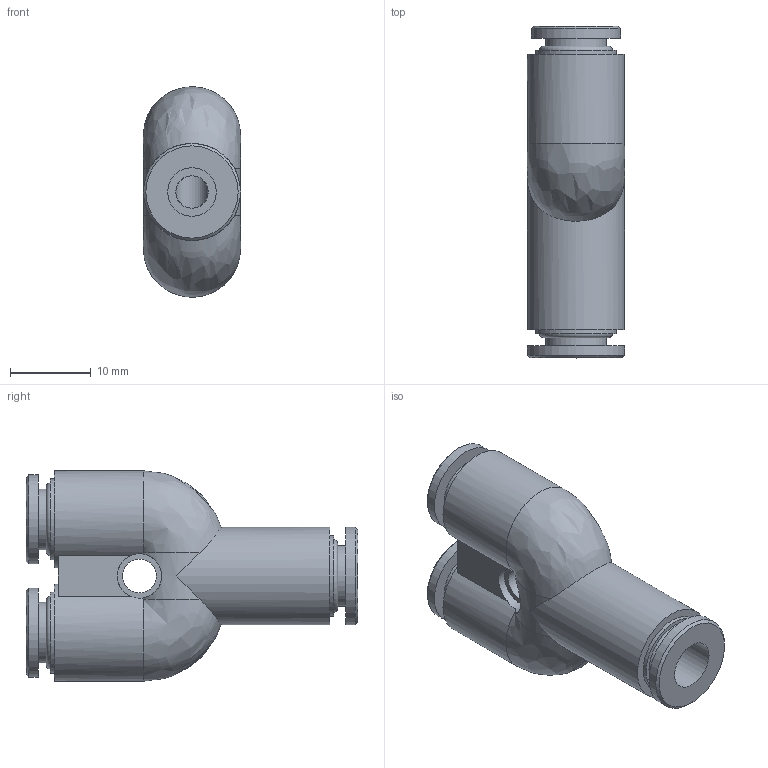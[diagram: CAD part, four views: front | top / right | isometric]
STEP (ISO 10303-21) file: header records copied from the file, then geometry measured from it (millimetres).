
FILE_DESCRIPTION(/* description */ (''),/* implementation_level */ '2;1');
FILE_NAME(/* name */ 'LXH40 0606 00.stp',/* time_stamp */ '2026-05-01T14:14:35+02:00',/* author */ ('freju'),/* organization */ (''),/* preprocessor_version */ 'ST-DEVELOPER v20.1',/* originating_system */ 'Autodesk Inventor 2026',/* authorisation */ '');
FILE_SCHEMA (('AUTOMOTIVE_DESIGN { 1 0 10303 214 3 1 1 }'));
Length unit declared in the file: millimetre
Products named in the file (1): LXH40 0606 00
Bounding box: 12 x 41 x 26 mm (x, y, z)
Volume: 5406.1 mm3; surface area: 4106.6 mm2
Topology: 1 solids, 1 shells, 57 faces, 130 edges, 81 vertices
Faces by surface type: cylinder 24, plane 23, bspline 4, torus 3, cone 3
Full cylindrical faces by diameter (mm): 4 x4, 4.2 x1, 5.5 x2, 6 x3, 7.5 x3, 10 x3, 11 x2, 12 x4
Entity records: 1813 total; most frequent: CARTESIAN_POINT 470, DIRECTION 298, ORIENTED_EDGE 244, AXIS2_PLACEMENT_3D 133, EDGE_CURVE 122, VERTEX_POINT 81, EDGE_LOOP 77, CIRCLE 69
